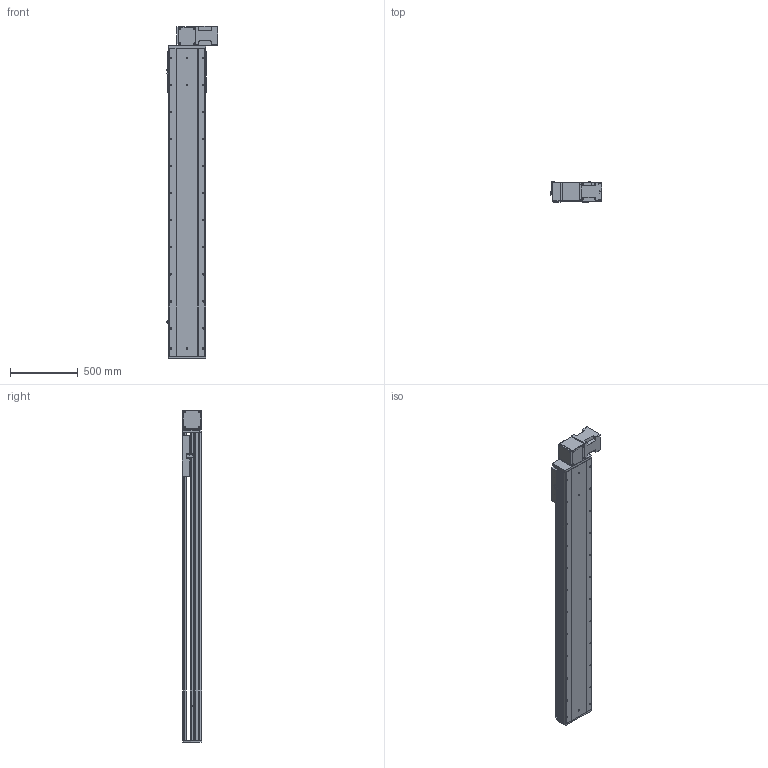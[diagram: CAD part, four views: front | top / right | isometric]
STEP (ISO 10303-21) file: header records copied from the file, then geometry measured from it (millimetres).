
FILE_DESCRIPTION (( 'STEP AP214' ), '1' );
FILE_NAME ('RTB28S-XX-1850-BL-M100-XX-C4.STEP', '2025-12-22T02:26:21', ( '' ), ( '' ), 'SwSTEP 2.0', 'SolidWorks 2018', '' );
FILE_SCHEMA (( 'AUTOMOTIVE_DESIGN' ));
Length unit declared in the file: millimetre
Products named in the file (4): RTB28S-GY-008^RTB28S-XX-XX-BL-M100-XX-C4; RTB28S-GY-011^RTB28S-XX-XX-BL-M100-XX-C4; RTB28S-GY-004^RTB28S-XX-XX-BL-M100-XX-C4; RTB28S-XX-1850-BL-M100-XX-C4
Assembly tree (3 placements, depth 2):
  RTB28S-XX-1850-BL-M100-XX-C4
    RTB28S-GY-011^RTB28S-XX-XX-BL-M100-XX-C4
    RTB28S-GY-004^RTB28S-XX-XX-BL-M100-XX-C4
    RTB28S-GY-008^RTB28S-XX-XX-BL-M100-XX-C4
Bounding box: 380.7 x 145 x 2457 mm (x, y, z)
Volume: 43001671.6 mm3; surface area: 4068965.8 mm2
Topology: 3 solids, 4 shells, 828 faces, 2208 edges, 1408 vertices
Faces by surface type: cylinder 391, plane 353, cone 80, torus 4
Entity records: 31457 total; most frequent: CARTESIAN_POINT 5602, DIRECTION 4686, ORIENTED_EDGE 4352, EDGE_CURVE 2176, AXIS2_PLACEMENT_3D 1708, VERTEX_POINT 1408, VECTOR 1270, LINE 1270
